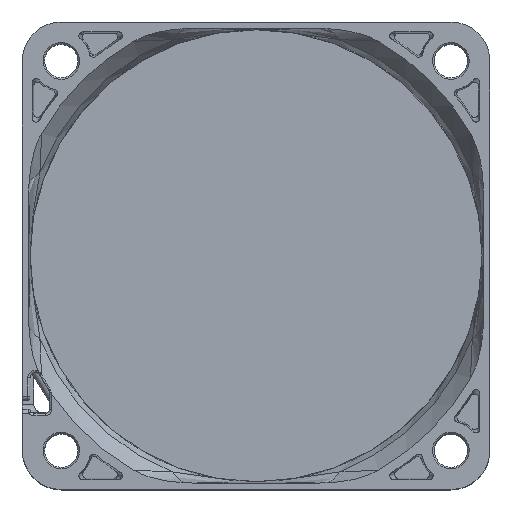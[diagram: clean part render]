
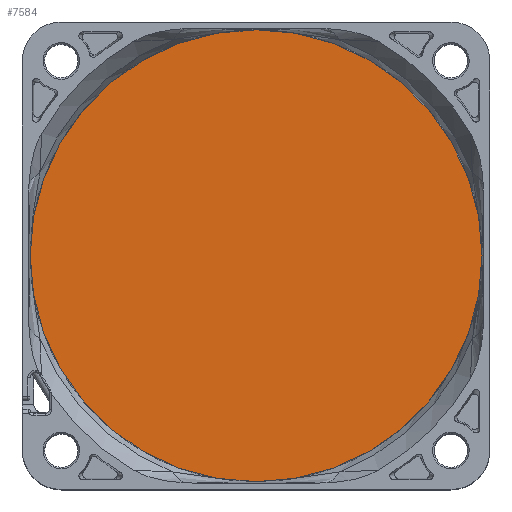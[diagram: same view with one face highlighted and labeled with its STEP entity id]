
A CAD part, top view. The second image highlights one B-rep face of the part: STEP entity #7584.
In plain terms, the highlighted planar face has unit normal (0, 0, 1).
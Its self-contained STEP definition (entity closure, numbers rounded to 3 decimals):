
#4792=FACE_OUTER_BOUND('',#8739,.T.);
#6839=PLANE('',#18470);
#7584=ADVANCED_FACE('',(#4792),#6839,.T.);
#8739=EDGE_LOOP('',(#12786));
#12786=ORIENTED_EDGE('',*,*,#16179,.T.);
#14152=VERTEX_POINT('',#44091);
#16179=EDGE_CURVE('',#14152,#14152,#17261,.T.);
#17261=CIRCLE('',#18469,29.);
#18469=AXIS2_PLACEMENT_3D('',#44090,#21750,#21751);
#18470=AXIS2_PLACEMENT_3D('',#44092,#21752,#21753);
#21750=DIRECTION('',(0.,0.,1.));
#21751=DIRECTION('',(1.,0.,0.));
#21752=DIRECTION('',(0.,0.,1.));
#21753=DIRECTION('',(-0.982,0.191,0.));
#44090=CARTESIAN_POINT('',(0.,0.,38.05));
#44091=CARTESIAN_POINT('',(29.,0.,38.05));
#44092=CARTESIAN_POINT('',(-30.921,6.01,38.05));
